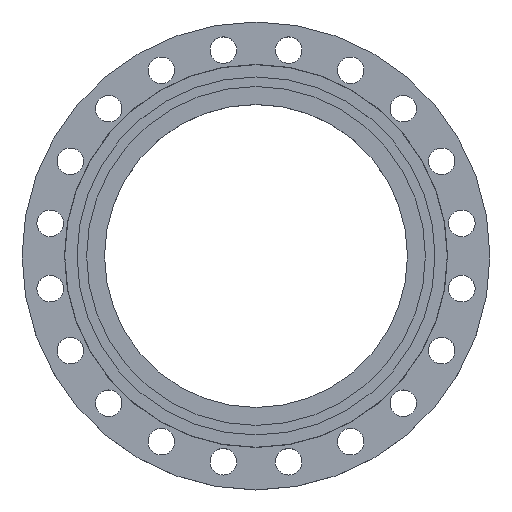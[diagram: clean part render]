
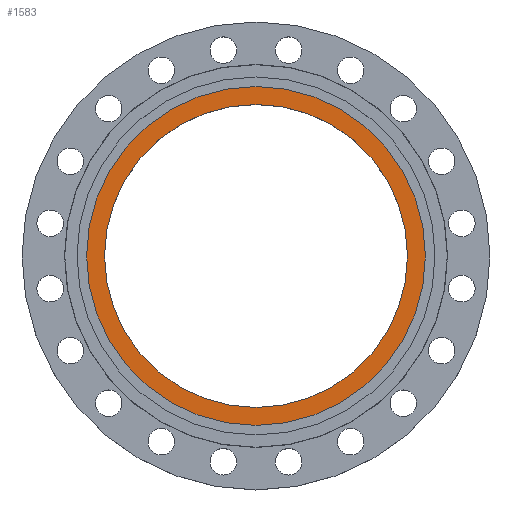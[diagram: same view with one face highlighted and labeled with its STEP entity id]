
A CAD part, top view. The second image highlights one B-rep face of the part: STEP entity #1583.
In plain terms, the highlighted planar face has unit normal (0, 0, 1).
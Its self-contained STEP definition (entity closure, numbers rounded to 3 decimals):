
#332 = DIRECTION ( 'NONE',  ( 1., 0., 0. ) ) ;
#333 = DIRECTION ( 'NONE',  ( 0., 0., 1. ) ) ;
#334 = CARTESIAN_POINT ( 'NONE',  ( 0., 0., 0. ) ) ;
#357 = DIRECTION ( 'NONE',  ( -1., 0., 0. ) ) ;
#358 = DIRECTION ( 'NONE',  ( 0., 0., -1. ) ) ;
#361 = CARTESIAN_POINT ( 'NONE',  ( 0., 0., 0. ) ) ;
#445 = EDGE_CURVE ( 'NONE', #1631, #924, #1041, .T. ) ;
#514 = CARTESIAN_POINT ( 'NONE',  ( 221.752, 0., 0. ) ) ;
#615 = DIRECTION ( 'NONE',  ( -1., 0., 0. ) ) ;
#616 = DIRECTION ( 'NONE',  ( 0., 0., -1. ) ) ;
#617 = CARTESIAN_POINT ( 'NONE',  ( 0., 0., 0. ) ) ;
#680 = AXIS2_PLACEMENT_3D ( 'NONE', #782, #781, #780 ) ;
#712 = EDGE_CURVE ( 'NONE', #1934, #1943, #1216, .T. ) ;
#780 = DIRECTION ( 'NONE',  ( 1., 0., 0. ) ) ;
#781 = DIRECTION ( 'NONE',  ( 0., 0., 1. ) ) ;
#782 = CARTESIAN_POINT ( 'NONE',  ( 0., 0., 0. ) ) ;
#924 = VERTEX_POINT ( 'NONE', #514 ) ;
#1041 = CIRCLE ( 'NONE', #680, 221.752 ) ;
#1049 = EDGE_CURVE ( 'NONE', #1943, #1934, #1436, .T. ) ;
#1055 = CARTESIAN_POINT ( 'NONE',  ( 248., 0., 0. ) ) ;
#1084 = EDGE_CURVE ( 'NONE', #924, #1631, #1815, .T. ) ;
#1170 = ORIENTED_EDGE ( 'NONE', *, *, #1049, .F. ) ;
#1171 = ORIENTED_EDGE ( 'NONE', *, *, #712, .F. ) ;
#1172 = ORIENTED_EDGE ( 'NONE', *, *, #445, .F. ) ;
#1173 = ORIENTED_EDGE ( 'NONE', *, *, #1084, .F. ) ;
#1216 = CIRCLE ( 'NONE', #1219, 248. ) ;
#1219 = AXIS2_PLACEMENT_3D ( 'NONE', #617, #616, #615 ) ;
#1283 = AXIS2_PLACEMENT_3D ( 'NONE', #361, #358, #357 ) ;
#1354 = DIRECTION ( 'NONE',  ( 1., 0., 0. ) ) ;
#1362 = DIRECTION ( 'NONE',  ( 0., 0., 1. ) ) ;
#1374 = CARTESIAN_POINT ( 'NONE',  ( 0., 0., 0. ) ) ;
#1436 = CIRCLE ( 'NONE', #1283, 248. ) ;
#1456 = FACE_BOUND ( 'NONE', #1643, .T. ) ;
#1474 = PLANE ( 'NONE',  #1669 ) ;
#1487 = FACE_OUTER_BOUND ( 'NONE', #1696, .T. ) ;
#1504 = CARTESIAN_POINT ( 'NONE',  ( -248., 0., 0. ) ) ;
#1576 = CARTESIAN_POINT ( 'NONE',  ( -221.752, 0., 0. ) ) ;
#1583 = ADVANCED_FACE ( 'NONE', ( #1456, #1487 ), #1474, .T. ) ;
#1631 = VERTEX_POINT ( 'NONE', #1576 ) ;
#1643 = EDGE_LOOP ( 'NONE', ( #1173, #1172 ) ) ;
#1669 = AXIS2_PLACEMENT_3D ( 'NONE', #1374, #1362, #1354 ) ;
#1696 = EDGE_LOOP ( 'NONE', ( #1171, #1170 ) ) ;
#1810 = AXIS2_PLACEMENT_3D ( 'NONE', #334, #333, #332 ) ;
#1815 = CIRCLE ( 'NONE', #1810, 221.752 ) ;
#1934 = VERTEX_POINT ( 'NONE', #1504 ) ;
#1943 = VERTEX_POINT ( 'NONE', #1055 ) ;
